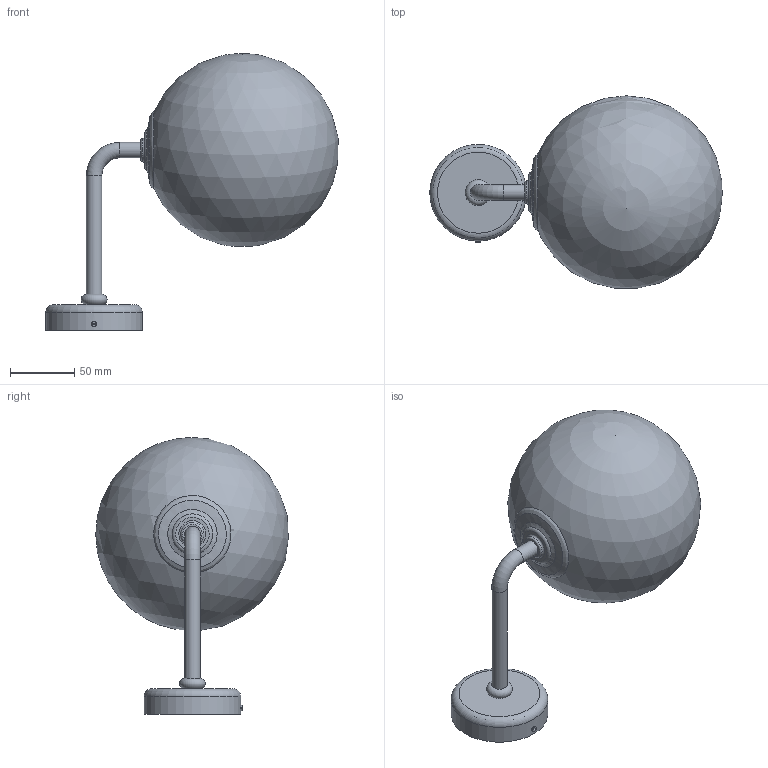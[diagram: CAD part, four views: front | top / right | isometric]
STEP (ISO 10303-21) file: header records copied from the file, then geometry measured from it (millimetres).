
FILE_DESCRIPTION(/* description */ (''),/* implementation_level */ '2;1');
FILE_NAME(/* name */ 'C:\Users\Dominika\Desktop\Modele CZARNY\B56\KINKIET B56.stp',/* time_stamp */ '2019-12-05T20:09:28+01:00',/* author */ ('Dominika'),/* organization */ (''),/* preprocessor_version */ 'ST-DEVELOPER v17',/* originating_system */ 'Autodesk Inventor 2019',/* authorisation */ '');
FILE_SCHEMA (('AUTOMOTIVE_DESIGN { 1 0 10303 214 3 1 1 }'));
Length unit declared in the file: millimetre
Products named in the file (7): KINKIET B56; b56 kula; b56 rurka; do ściany; B56 pierscien duzy; b56 pierscien maly; sruba
Assembly tree (6 placements, depth 2):
  KINKIET B56
    b56 kula
    b56 rurka
    do ściany
    B56 pierscien duzy
    b56 pierscien maly
    sruba
Bounding box: 226.95 x 149.37 x 215 mm (x, y, z)
Volume: 1814108.6 mm3; surface area: 101087.9 mm2
Topology: 6 solids, 6 shells, 37 faces, 83 edges, 58 vertices
Faces by surface type: plane 16, cylinder 11, torus 6, bspline 3, sphere 1
Full cylindrical faces by diameter (mm): 2.5 x1, 3.5 x1, 4 x1, 12 x6, 70 x1, 75 x1
Entity records: 1477 total; most frequent: CARTESIAN_POINT 341, DIRECTION 223, ORIENTED_EDGE 162, AXIS2_PLACEMENT_3D 102, EDGE_CURVE 81, VERTEX_POINT 58, CIRCLE 55, EDGE_LOOP 47
